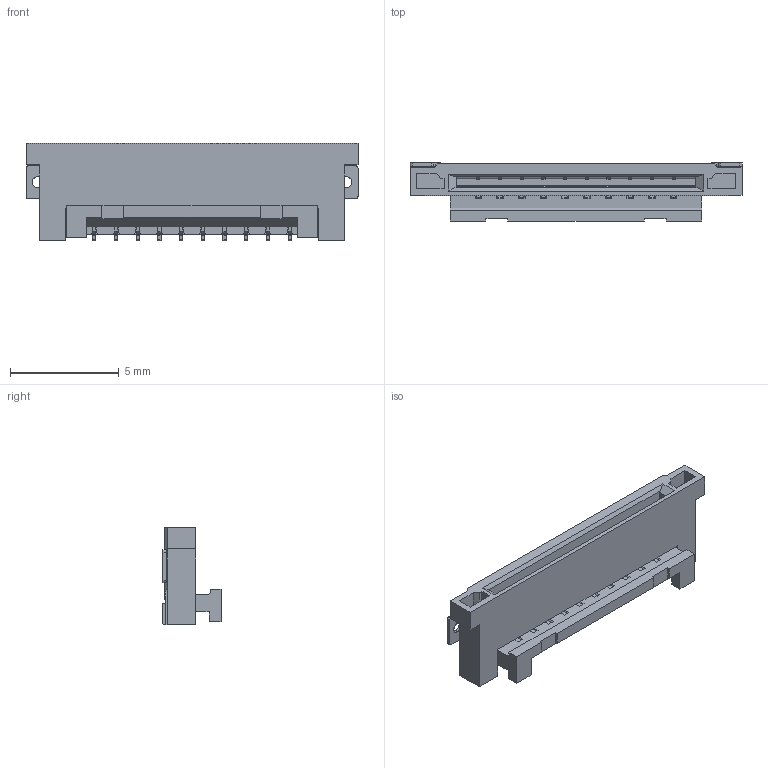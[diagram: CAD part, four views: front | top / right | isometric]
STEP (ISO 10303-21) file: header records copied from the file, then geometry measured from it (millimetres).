
FILE_DESCRIPTION((''),'2;1');
FILE_NAME('S-51592-010XX-XXX','2022-08-03T',('d00133'),(''),'CREO PARAMETRIC BY PTC INC, 2014500','CREO PARAMETRIC BY PTC INC, 2014500','');
FILE_SCHEMA(('CONFIG_CONTROL_DESIGN'));
Length unit declared in the file: millimetre
Products named in the file (1): S-51592-010XX-XXX
Bounding box: 15.3 x 2.67 x 4.5 mm (x, y, z)
Volume: 77 mm3; surface area: 349.4 mm2
Topology: 1 solids, 2 shells, 818 faces, 2517 edges, 1690 vertices
Faces by surface type: plane 574, cylinder 236, cone 8
Entity records: 28222 total; most frequent: CARTESIAN_POINT 5146, ORIENTED_EDGE 4938, DIRECTION 4649, EDGE_CURVE 2469, VECTOR 1995, LINE 1995, VERTEX_POINT 1642, AXIS2_PLACEMENT_3D 1327
